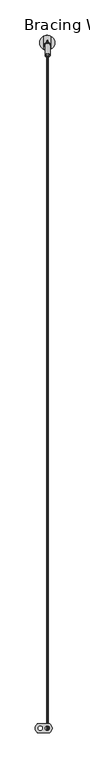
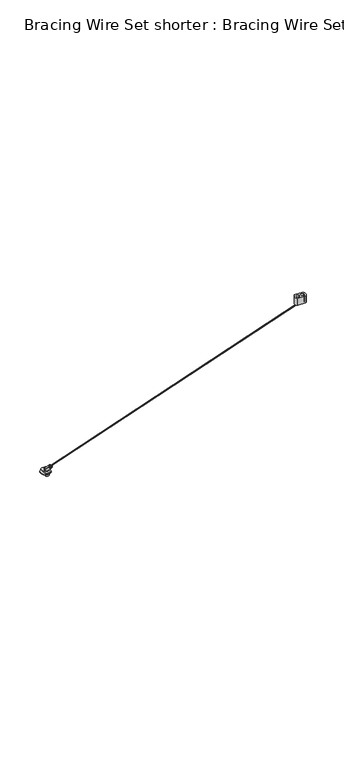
"""IFC4 building model written with IfcOpenShell, lengths in millimetres: proxy geometry, Bracing Wire Set shorter : Bracing Wire Set shorter."""

from ifc_helpers import new_model, si_unit, point, frame, frame_2d, origin, origin_with_axes, place, context, project, spatial, polyline, circle_curve, trimmed, segment, composite_curve, outline, extrude, source, transform, mapped, element, save


def bracing_wire_set_shorter_bracing_wire_set_shorter_f975b5e3(model_context):
    return source(origin(), model_context, "Body", "SweptSolid", [
        extrude(outline(composite_curve([segment(polyline([(-396.2736485, -979.4927923), (-414.2097995, -979.4927923)]), True, "CONTINUOUS"), segment(trimmed(circle_curve(frame_2d((-409.3201364, -973.2463962)), 7.9326081), [point((-414.2097995, -979.4927923))], [point((-414.2097995, -967.0))], False, "CARTESIAN"), True, "CONTINUOUS"), segment(polyline([(-414.2097995, -967.0), (-396.2736485, -967.0)]), True, "CONTINUOUS"), segment(trimmed(circle_curve(frame_2d((-401.1605225, -973.2463962)), 7.9308891), [point((-396.2736485, -967.0))], [point((-396.2736485, -979.4927923))], False, "CARTESIAN"), True, "CONTINUOUS")], self_intersect=False), holes=[composite_curve([segment(trimmed(circle_curve(frame_2d((-400.0, -973.1527592)), 3.0), [point((-403.0, -973.1527592))], [point((-397.0, -973.1527592))], True, "CARTESIAN"), True, "CONTINUOUS"), segment(trimmed(circle_curve(frame_2d((-400.0, -973.1527592)), 3.0), [point((-397.0, -973.1527592))], [point((-403.0, -973.1527592))], True, "CARTESIAN"), True, "CONTINUOUS")], self_intersect=False), composite_curve([segment(trimmed(circle_curve(frame_2d((-410.0, -973.1527592)), 3.0), [point((-413.0, -973.1527592))], [point((-407.0, -973.1527592))], True, "CARTESIAN"), True, "CONTINUOUS"), segment(trimmed(circle_curve(frame_2d((-410.0, -973.1527592)), 3.0), [point((-407.0, -973.1527592))], [point((-413.0, -973.1527592))], True, "CARTESIAN"), True, "CONTINUOUS")], self_intersect=False)]), frame((0.0, 0.0, 983.5930877), z_axis=(0.0, 0.0, 1.0), x_axis=(1.0, 0.0, 0.0)), (0.0, 0.0, 1.0), 16.4069123),
        extrude(outline(polyline([(0.0, 0.0), (-0.8408539, 0.0), (-1.4354274, 0.5945735), (-1.4354274, 1.4354274), (-0.840854, 2.0300009), (0.0, 2.0300009), (0.5945735, 1.4354274), (0.5945736, 0.5945735), (0.0, 0.0)])), frame((-399.2231523, 3.3746727, 3.2733283), z_axis=(0.0, -0.7044287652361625, 0.7097746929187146), x_axis=(-0.38268343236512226, 0.6557463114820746, 0.6508073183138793)), (0.0, 0.0, 1.0), 1391.9361594),
        extrude(outline(composite_curve([segment(trimmed(circle_curve(frame_2d((-400.241724, 0.6303556)), 8.6418309), [point((-404.241724, 8.2907238))], [point((-396.241724, 8.2907238))], False, "CARTESIAN"), True, "CONTINUOUS"), segment(polyline([(-396.241724, 8.2907238), (-396.241724, -8.4779978)]), True, "CONTINUOUS"), segment(trimmed(circle_curve(frame_2d((-400.241724, -0.8176295)), 8.6418309), [point((-396.241724, -8.4779978))], [point((-404.241724, -8.4779978))], False, "CARTESIAN"), True, "CONTINUOUS"), segment(polyline([(-404.241724, -8.4779978), (-404.241724, 8.2907238)]), True, "CONTINUOUS")], self_intersect=False)), frame((0.0, 0.0, -4.3497354), z_axis=(0.0, 0.0, 1.0), x_axis=(1.0, 0.0, 0.0)), (0.0, 0.0, 1.0), 4.3497354),
        extrude(outline(composite_curve([segment(trimmed(circle_curve(frame_2d((0.0, 2.0419803)), 2.0419802), [point((0.0, 4.0839605))], [point((0.0, 0.0))], False, "CARTESIAN"), True, "CONTINUOUS"), segment(trimmed(circle_curve(frame_2d((0.0, 2.0419803)), 2.0419802), [point((0.0, 0.0))], [point((0.0, 4.0839605))], False, "CARTESIAN"), True, "CONTINUOUS")], self_intersect=False)), frame((-397.8517245, -17.7445322, 23.0490253), z_axis=(0.0, -0.7044287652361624, 0.7097746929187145), x_axis=(0.0, 0.7097746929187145, 0.7044287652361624)), (0.0, 0.0, 1.0), 3.0),
        extrude(outline(composite_curve([segment(trimmed(circle_curve(frame_2d((0.0, 3.526017)), 3.5260169), [point((0.0, 7.0520339))], [point((0.0, 0.0))], False, "CARTESIAN"), True, "CONTINUOUS"), segment(trimmed(circle_curve(frame_2d((0.0, 3.526017)), 3.5260169), [point((0.0, 0.0))], [point((0.0, 7.0520339))], False, "CARTESIAN"), True, "CONTINUOUS")], self_intersect=False)), frame((-396.1588422, -3.8220268, 8.6887123), z_axis=(0.0, -0.7044287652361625, 0.7097746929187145), x_axis=(0.0, 0.7097746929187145, 0.7044287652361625)), (0.0, 0.0, 1.0), 20.0),
        extrude(outline(composite_curve([segment(trimmed(circle_curve(frame_2d((0.0, 4.6190623)), 4.6190623), [point((0.0, 9.2381245))], [point((0.0, 0.0))], False, "CARTESIAN"), True, "CONTINUOUS"), segment(trimmed(circle_curve(frame_2d((0.0, 4.6190623)), 4.6190623), [point((0.0, 0.0))], [point((0.0, 9.2381245))], False, "CARTESIAN"), True, "CONTINUOUS")], self_intersect=False)), frame((-395.2117226, -3.0496708, 8.0463532), z_axis=(0.0, -0.7044287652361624, 0.7097746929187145), x_axis=(0.0, 0.7097746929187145, 0.7044287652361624)), (0.0, 0.0, 1.0), 1.0),
        extrude(outline(composite_curve([segment(trimmed(circle_curve(frame_2d((-400.2064846, -0.1848983)), 10.6943727), [point((-410.9008572, -0.1848983))], [point((-389.5121119, -0.1848983))], False, "CARTESIAN"), True, "CONTINUOUS"), segment(trimmed(circle_curve(frame_2d((-400.2064846, -0.1848983)), 10.6943727), [point((-389.5121119, -0.1848983))], [point((-410.9008572, -0.1848983))], False, "CARTESIAN"), True, "CONTINUOUS")], self_intersect=False)), origin_with_axes(), (0.0, 0.0, 1.0), 1.0),
        extrude(outline(composite_curve([segment(polyline([(-405.241724, -9.0617125), (-405.241724, 8.8744385)]), True, "CONTINUOUS"), segment(trimmed(circle_curve(frame_2d((-400.241724, 0.6303556)), 9.6418309), [point((-405.241724, 8.8744385))], [point((-395.241724, 8.8744385))], False, "CARTESIAN"), True, "CONTINUOUS"), segment(polyline([(-395.241724, 8.8744385), (-395.241724, -9.0617125)]), True, "CONTINUOUS"), segment(trimmed(circle_curve(frame_2d((-400.241724, -0.8176295)), 9.6418309), [point((-395.241724, -9.0617125))], [point((-405.241724, -9.0617125))], False, "CARTESIAN"), True, "CONTINUOUS")], self_intersect=False)), frame((0.0, 0.0, 1.0), z_axis=(0.0, 0.0, 1.0), x_axis=(1.0, 0.0, 0.0)), (0.0, 0.0, 1.0), 2.5),
    ])


if __name__ == "__main__":
    model = new_model("IFC4")
    model_context = context("Model", 3, world=origin())
    ifc_project = project(units=[si_unit("LENGTHUNIT", "METRE", prefix="MILLI")], contexts=[model_context])
    site = spatial("IfcSite", under=ifc_project)
    building = spatial("IfcBuilding", under=site)
    placement = place(None, origin())
    bracing_wire_set_shorter_bracing_wire_set_shorter_shape = bracing_wire_set_shorter_bracing_wire_set_shorter_f975b5e3(model_context)
    element("IfcBuildingElementProxy", 1, Name="Bracing Wire Set shorter : Bracing Wire Set shorter", ObjectType="Bracing Wire Set shorter : Bracing Wire Set shorter", at=placement, inside=building, context=model_context, shape_type="MappedRepresentation", body=[
        mapped(bracing_wire_set_shorter_bracing_wire_set_shorter_shape, transform((0.0, 0.0, 0.0), x_axis=(1.0, 0.0, 0.0), y_axis=(0.0, 1.0, 0.0), z_axis=(0.0, 0.0, 1.0))),
    ])
    save(model, "model.ifc")
